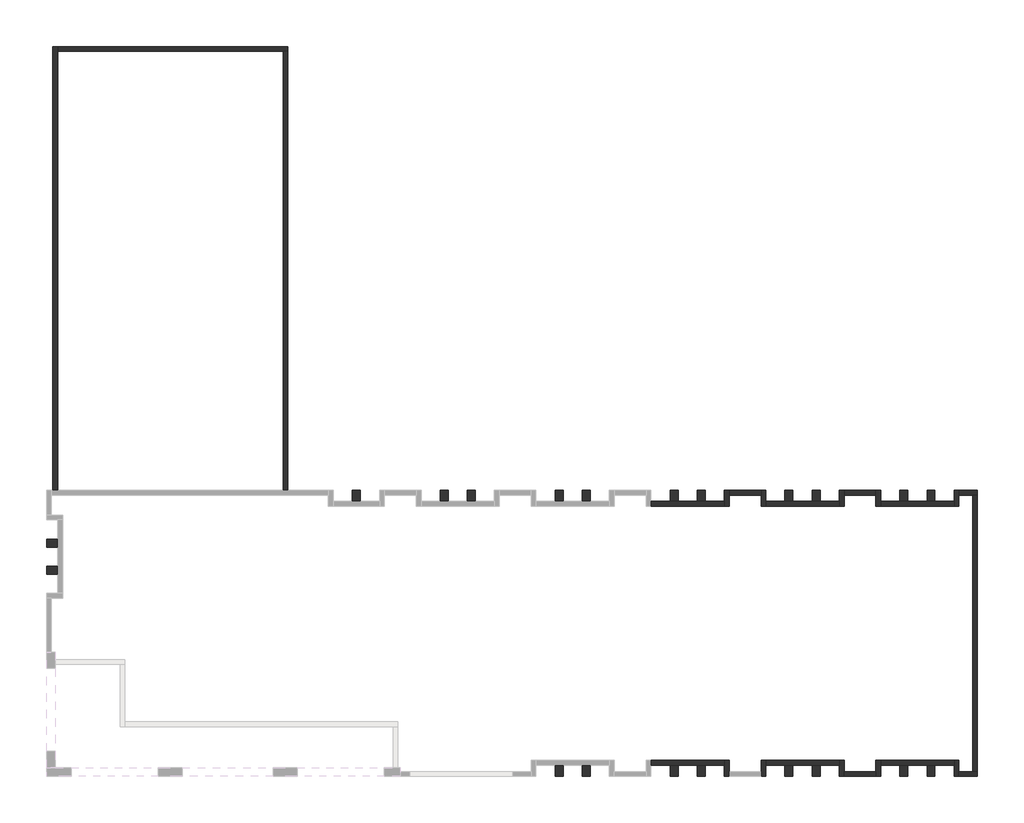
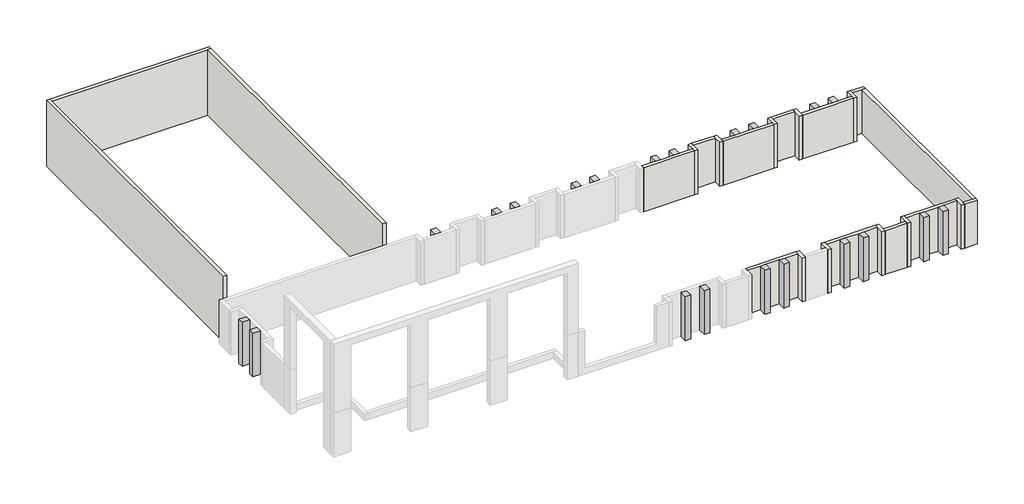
# One storey, part 2 of 2: 25 walls, 21 columns.
"""IFC4 building model written with IfcOpenShell, lengths in millimetres."""

from ifc_helpers import new_model, si_unit, frame, origin, place, context, project, spatial, polyline, outline, extrude, faceted_brep, element, save

model = new_model("IFC4")

# Units and contexts
model_context = context("Model", 3, world=origin())
ifc_project = project(units=[si_unit("LENGTHUNIT", "METRE", prefix="MILLI")], contexts=[model_context])

# Site, building, storey
site = spatial("IfcSite", under=ifc_project)
building = spatial("IfcBuilding", under=site)
storey = spatial("IfcBuildingStorey", under=building, Name="室外地坪", Elevation=-600.0)

# Columns
placement = place(None, origin())
element("IfcColumn", 1, ObjectType="矩形建筑柱 : 500 x 1000 mm", at=placement, inside=storey, context=model_context, shape_type="SweptSolid", body=[
    extrude(outline(polyline([(-38741.7970835, -14069.0484842), (-38741.7970835, -13569.0484842), (-38041.7970835, -13569.0484842), (-38041.7970835, -14069.0484842), (-38741.7970835, -14069.0484842)])), frame((0.0, 0.0, -600.0), z_axis=(0.0, 0.0, 1.0), x_axis=(1.0, 0.0, 0.0)), (0.0, 0.0, 1.0), 4200.0),
])
element("IfcColumn", 2, ObjectType="矩形建筑柱 : 500 x 1000 mm", at=placement, inside=storey, context=model_context, shape_type="SweptSolid", body=[
    extrude(outline(polyline([(-38741.7970835, -15769.0484842), (-38741.7970835, -15269.0484842), (-38041.7970835, -15269.0484842), (-38041.7970835, -15769.0484842), (-38741.7970835, -15769.0484842)])), frame((0.0, 0.0, -600.0), z_axis=(0.0, 0.0, 1.0), x_axis=(1.0, 0.0, 0.0)), (0.0, 0.0, 1.0), 4200.0),
])
element("IfcColumn", 3, ObjectType="矩形建筑柱 : 500 x 1000 mm", at=placement, inside=storey, context=model_context, shape_type="SweptSolid", body=[
    extrude(outline(polyline([(14718.2029165, -10509.0484842), (15218.2029165, -10509.0484842), (15218.2029165, -11209.0484842), (14718.2029165, -11209.0484842), (14718.2029165, -10509.0484842)])), frame((0.0, 0.0, -600.0), z_axis=(0.0, 0.0, 1.0), x_axis=(1.0, 0.0, 0.0)), (0.0, 0.0, 1.0), 4200.0),
])
element("IfcColumn", 4, ObjectType="矩形建筑柱 : 500 x 1000 mm", at=placement, inside=storey, context=model_context, shape_type="SweptSolid", body=[
    extrude(outline(polyline([(16418.2029165, -10509.0484842), (16918.2029165, -10509.0484842), (16918.2029165, -11209.0484842), (16418.2029165, -11209.0484842), (16418.2029165, -10509.0484842)])), frame((0.0, 0.0, -600.0), z_axis=(0.0, 0.0, 1.0), x_axis=(1.0, 0.0, 0.0)), (0.0, 0.0, 1.0), 4200.0),
])
element("IfcColumn", 5, ObjectType="矩形建筑柱 : 500 x 1000 mm", at=placement, inside=storey, context=model_context, shape_type="SweptSolid", body=[
    extrude(outline(polyline([(7518.2029165, -10509.0484842), (8018.2029165, -10509.0484842), (8018.2029165, -11209.0484842), (7518.2029165, -11209.0484842), (7518.2029165, -10509.0484842)])), frame((0.0, 0.0, -600.0), z_axis=(0.0, 0.0, 1.0), x_axis=(1.0, 0.0, 0.0)), (0.0, 0.0, 1.0), 4200.0),
])
element("IfcColumn", 6, ObjectType="矩形建筑柱 : 500 x 1000 mm", at=placement, inside=storey, context=model_context, shape_type="SweptSolid", body=[
    extrude(outline(polyline([(9218.2029165, -10509.0484842), (9718.2029165, -10509.0484842), (9718.2029165, -11209.0484842), (9218.2029165, -11209.0484842), (9218.2029165, -10509.0484842)])), frame((0.0, 0.0, -600.0), z_axis=(0.0, 0.0, 1.0), x_axis=(1.0, 0.0, 0.0)), (0.0, 0.0, 1.0), 4200.0),
])
element("IfcColumn", 7, ObjectType="矩形建筑柱 : 500 x 1000 mm", at=placement, inside=storey, context=model_context, shape_type="SweptSolid", body=[
    extrude(outline(polyline([(318.2029165, -10509.0484842), (818.2029165, -10509.0484842), (818.2029165, -11209.0484842), (318.2029165, -11209.0484842), (318.2029165, -10509.0484842)])), frame((0.0, 0.0, -600.0), z_axis=(0.0, 0.0, 1.0), x_axis=(1.0, 0.0, 0.0)), (0.0, 0.0, 1.0), 4200.0),
])
element("IfcColumn", 8, ObjectType="矩形建筑柱 : 500 x 1000 mm", at=placement, inside=storey, context=model_context, shape_type="SweptSolid", body=[
    extrude(outline(polyline([(2018.2029165, -10509.0484842), (2518.2029165, -10509.0484842), (2518.2029165, -11209.0484842), (2018.2029165, -11209.0484842), (2018.2029165, -10509.0484842)])), frame((0.0, 0.0, -600.0), z_axis=(0.0, 0.0, 1.0), x_axis=(1.0, 0.0, 0.0)), (0.0, 0.0, 1.0), 4200.0),
])
element("IfcColumn", 9, ObjectType="矩形建筑柱 : 500 x 1000 mm", at=placement, inside=storey, context=model_context, shape_type="SweptSolid", body=[
    extrude(outline(polyline([(-6881.7970835, -10509.0484842), (-6381.7970835, -10509.0484842), (-6381.7970835, -11209.0484842), (-6881.7970835, -11209.0484842), (-6881.7970835, -10509.0484842)])), frame((0.0, 0.0, -600.0), z_axis=(0.0, 0.0, 1.0), x_axis=(1.0, 0.0, 0.0)), (0.0, 0.0, 1.0), 4200.0),
])
element("IfcColumn", 10, ObjectType="矩形建筑柱 : 500 x 1000 mm", at=placement, inside=storey, context=model_context, shape_type="SweptSolid", body=[
    extrude(outline(polyline([(-5181.7970835, -10509.0484842), (-4681.7970835, -10509.0484842), (-4681.7970835, -11209.0484842), (-5181.7970835, -11209.0484842), (-5181.7970835, -10509.0484842)])), frame((0.0, 0.0, -600.0), z_axis=(0.0, 0.0, 1.0), x_axis=(1.0, 0.0, 0.0)), (0.0, 0.0, 1.0), 4200.0),
])
element("IfcColumn", 11, ObjectType="矩形建筑柱 : 500 x 1000 mm", at=placement, inside=storey, context=model_context, shape_type="SweptSolid", body=[
    extrude(outline(polyline([(-14081.7970835, -10509.0484842), (-13581.7970835, -10509.0484842), (-13581.7970835, -11209.0484842), (-14081.7970835, -11209.0484842), (-14081.7970835, -10509.0484842)])), frame((0.0, 0.0, -600.0), z_axis=(0.0, 0.0, 1.0), x_axis=(1.0, 0.0, 0.0)), (0.0, 0.0, 1.0), 4200.0),
])
element("IfcColumn", 12, ObjectType="矩形建筑柱 : 500 x 1000 mm", at=placement, inside=storey, context=model_context, shape_type="SweptSolid", body=[
    extrude(outline(polyline([(-12381.7970835, -10509.0484842), (-11881.7970835, -10509.0484842), (-11881.7970835, -11209.0484842), (-12381.7970835, -11209.0484842), (-12381.7970835, -10509.0484842)])), frame((0.0, 0.0, -600.0), z_axis=(0.0, 0.0, 1.0), x_axis=(1.0, 0.0, 0.0)), (0.0, 0.0, 1.0), 4200.0),
])
element("IfcColumn", 13, ObjectType="矩形建筑柱 : 500 x 1000 mm", at=placement, inside=storey, context=model_context, shape_type="SweptSolid", body=[
    extrude(outline(polyline([(-19581.7970835, -10509.0484842), (-19081.7970835, -10509.0484842), (-19081.7970835, -11209.0484842), (-19581.7970835, -11209.0484842), (-19581.7970835, -10509.0484842)])), frame((0.0, 0.0, -600.0), z_axis=(0.0, 0.0, 1.0), x_axis=(1.0, 0.0, 0.0)), (0.0, 0.0, 1.0), 4200.0),
])
element("IfcColumn", 14, ObjectType="矩形建筑柱 : 500 x 1000 mm", at=placement, inside=storey, context=model_context, shape_type="SweptSolid", body=[
    extrude(outline(polyline([(15218.2029165, -28429.0484842), (14718.2029165, -28429.0484842), (14718.2029165, -27729.0484842), (15218.2029165, -27729.0484842), (15218.2029165, -28429.0484842)])), frame((0.0, 0.0, -600.0), z_axis=(0.0, 0.0, 1.0), x_axis=(1.0, 0.0, 0.0)), (0.0, 0.0, 1.0), 4200.0),
])
element("IfcColumn", 15, ObjectType="矩形建筑柱 : 500 x 1000 mm", at=placement, inside=storey, context=model_context, shape_type="SweptSolid", body=[
    extrude(outline(polyline([(16918.2029165, -28429.0484842), (16418.2029165, -28429.0484842), (16418.2029165, -27729.0484842), (16918.2029165, -27729.0484842), (16918.2029165, -28429.0484842)])), frame((0.0, 0.0, -600.0), z_axis=(0.0, 0.0, 1.0), x_axis=(1.0, 0.0, 0.0)), (0.0, 0.0, 1.0), 4200.0),
])
element("IfcColumn", 16, ObjectType="矩形建筑柱 : 500 x 1000 mm", at=placement, inside=storey, context=model_context, shape_type="SweptSolid", body=[
    extrude(outline(polyline([(8018.2029165, -28429.0484842), (7518.2029165, -28429.0484842), (7518.2029165, -27729.0484842), (8018.2029165, -27729.0484842), (8018.2029165, -28429.0484842)])), frame((0.0, 0.0, -600.0), z_axis=(0.0, 0.0, 1.0), x_axis=(1.0, 0.0, 0.0)), (0.0, 0.0, 1.0), 4200.0),
])
element("IfcColumn", 17, ObjectType="矩形建筑柱 : 500 x 1000 mm", at=placement, inside=storey, context=model_context, shape_type="SweptSolid", body=[
    extrude(outline(polyline([(9718.2029165, -28429.0484842), (9218.2029165, -28429.0484842), (9218.2029165, -27729.0484842), (9718.2029165, -27729.0484842), (9718.2029165, -28429.0484842)])), frame((0.0, 0.0, -600.0), z_axis=(0.0, 0.0, 1.0), x_axis=(1.0, 0.0, 0.0)), (0.0, 0.0, 1.0), 4200.0),
])
element("IfcColumn", 18, ObjectType="矩形建筑柱 : 500 x 1000 mm", at=placement, inside=storey, context=model_context, shape_type="SweptSolid", body=[
    extrude(outline(polyline([(818.2029165, -28429.0484842), (318.2029165, -28429.0484842), (318.2029165, -27729.0484842), (818.2029165, -27729.0484842), (818.2029165, -28429.0484842)])), frame((0.0, 0.0, -600.0), z_axis=(0.0, 0.0, 1.0), x_axis=(1.0, 0.0, 0.0)), (0.0, 0.0, 1.0), 4200.0),
])
element("IfcColumn", 19, ObjectType="矩形建筑柱 : 500 x 1000 mm", at=placement, inside=storey, context=model_context, shape_type="SweptSolid", body=[
    extrude(outline(polyline([(2518.2029165, -28429.0484842), (2018.2029165, -28429.0484842), (2018.2029165, -27729.0484842), (2518.2029165, -27729.0484842), (2518.2029165, -28429.0484842)])), frame((0.0, 0.0, -600.0), z_axis=(0.0, 0.0, 1.0), x_axis=(1.0, 0.0, 0.0)), (0.0, 0.0, 1.0), 4200.0),
])
element("IfcColumn", 20, ObjectType="矩形建筑柱 : 500 x 1000 mm", at=placement, inside=storey, context=model_context, shape_type="SweptSolid", body=[
    extrude(outline(polyline([(-6381.7970835, -28429.0484842), (-6881.7970835, -28429.0484842), (-6881.7970835, -27729.0484842), (-6381.7970835, -27729.0484842), (-6381.7970835, -28429.0484842)])), frame((0.0, 0.0, -600.0), z_axis=(0.0, 0.0, 1.0), x_axis=(1.0, 0.0, 0.0)), (0.0, 0.0, 1.0), 4200.0),
])
element("IfcColumn", 21, ObjectType="矩形建筑柱 : 500 x 1000 mm", at=placement, inside=storey, context=model_context, shape_type="SweptSolid", body=[
    extrude(outline(polyline([(-4681.7970835, -28429.0484842), (-5181.7970835, -28429.0484842), (-5181.7970835, -27729.0484842), (-4681.7970835, -27729.0484842), (-4681.7970835, -28429.0484842)])), frame((0.0, 0.0, -600.0), z_axis=(0.0, 0.0, 1.0), x_axis=(1.0, 0.0, 0.0)), (0.0, 0.0, 1.0), 4200.0),
])

# Walls
element("IfcWall", 22, ObjectType="F1-24CM-外牆", at=placement, inside=storey, context=model_context, shape_type="Brep", body=[
    faceted_brep([(19578.2029165, -28129.0484842, -600.0), (19578.2029165, -10809.0484842, -600.0), (19578.2029165, -10809.0484842, 3600.0), (19578.2029165, -28129.0484842, 3600.0), (19278.2029165, -28129.0484842, -600.0), (19278.2029165, -28129.0484842, 3600.0), (19278.2029165, -20809.0484842, 3600.0), (19278.2029165, -20529.0484842, 3600.0), (19278.2029165, -18409.0484842, 3600.0), (19278.2029165, -18129.0484842, 3600.0), (19278.2029165, -14809.0484842, 3600.0), (19278.2029165, -14529.0484842, 3600.0), (19278.2029165, -10809.0484842, 3600.0), (19278.2029165, -10809.0484842, -600.0)], [[[0, 1, 2, 3]], [[4, 5, 6, 7, 8, 9, 10, 11, 12, 13]], [[1, 0, 4, 13]], [[3, 2, 12, 11, 10, 9, 8, 7, 6, 5]], [[2, 1, 13, 12]], [[0, 3, 5, 4]]]),
])
element("IfcWall", 23, ObjectType="F1-24CM-外牆", at=placement, inside=storey, context=model_context, shape_type="Brep", body=[
    faceted_brep([(19578.2029165, -28129.0484842, -600.0), (19278.2029165, -28129.0484842, -600.0), (18418.2029165, -28129.0484842, -600.0), (18418.2029165, -28129.0484842, 3600.0), (19278.2029165, -28129.0484842, 3600.0), (19578.2029165, -28129.0484842, 3600.0), (19578.2029165, -28429.0484842, -600.0), (19578.2029165, -28429.0484842, 3600.0), (18418.2029165, -28429.0484842, 3600.0), (18418.2029165, -28429.0484842, -600.0)], [[[0, 1, 2, 3, 4, 5]], [[6, 7, 8, 9]], [[2, 1, 0, 6, 9]], [[5, 4, 3, 8, 7]], [[0, 5, 7, 6]], [[3, 2, 9, 8]]]),
])
element("IfcWall", 24, ObjectType="F1-24CM-外牆", at=placement, inside=storey, context=model_context, shape_type="Brep", body=[
    faceted_brep([(13518.2029165, -11509.0484842, -600.0), (18118.2029165, -11509.0484842, -600.0), (18118.2029165, -11509.0484842, 3600.0), (15158.2029165, -11509.0484842, 3600.0), (14878.2029165, -11509.0484842, 3600.0), (13518.2029165, -11509.0484842, 3600.0), (13518.2029165, -11209.0484842, -600.0), (13518.2029165, -11209.0484842, 3600.0), (14718.2029165, -11209.0484842, 3600.0), (15218.2029165, -11209.0484842, 3600.0), (16418.2029165, -11209.0484842, 3600.0), (16918.2029165, -11209.0484842, 3600.0), (18118.2029165, -11209.0484842, 3600.0), (18118.2029165, -11209.0484842, -600.0), (16918.2029165, -11209.0484842, -600.0), (16418.2029165, -11209.0484842, -600.0), (15218.2029165, -11209.0484842, -600.0), (14718.2029165, -11209.0484842, -600.0)], [[[0, 1, 2, 3, 4, 5]], [[6, 7, 8, 9, 10, 11, 12, 13, 14, 15, 16, 17]], [[1, 0, 6, 17, 16, 15, 14, 13]], [[5, 4, 3, 2, 12, 11, 10, 9, 8, 7]], [[2, 1, 13, 12]], [[0, 5, 7, 6]]]),
])
element("IfcWall", 25, ObjectType="F1-24CM-外牆", at=placement, inside=storey, context=model_context, shape_type="Brep", body=[
    faceted_brep([(13218.2029165, -10509.0484842, -600.0), (13218.2029165, -10809.0484842, -600.0), (13218.2029165, -11509.0484842, -600.0), (13218.2029165, -11509.0484842, 3600.0), (13218.2029165, -10809.0484842, 3600.0), (13218.2029165, -10509.0484842, 3600.0), (13518.2029165, -10509.0484842, -600.0), (13518.2029165, -10509.0484842, 3600.0), (13518.2029165, -11209.0484842, 3600.0), (13518.2029165, -11509.0484842, 3600.0), (13518.2029165, -11509.0484842, -600.0), (13518.2029165, -11209.0484842, -600.0)], [[[0, 1, 2, 3, 4, 5]], [[6, 7, 8, 9, 10, 11]], [[2, 1, 0, 6, 11, 10]], [[5, 4, 3, 9, 8, 7]], [[0, 5, 7, 6]], [[3, 2, 10, 9]]]),
])
element("IfcWall", 26, ObjectType="F1-24CM-外牆", at=placement, inside=storey, context=model_context, shape_type="Brep", body=[
    faceted_brep([(18418.2029165, -11509.0484842, -600.0), (18418.2029165, -10809.0484842, -600.0), (18418.2029165, -10509.0484842, -600.0), (18418.2029165, -10509.0484842, 3600.0), (18418.2029165, -10809.0484842, 3600.0), (18418.2029165, -11509.0484842, 3600.0), (18118.2029165, -11509.0484842, -600.0), (18118.2029165, -11509.0484842, 3600.0), (18118.2029165, -11209.0484842, 3600.0), (18118.2029165, -10509.0484842, 3600.0), (18118.2029165, -10509.0484842, -600.0), (18118.2029165, -11209.0484842, -600.0)], [[[0, 1, 2, 3, 4, 5]], [[6, 7, 8, 9, 10, 11]], [[2, 1, 0, 6, 11, 10]], [[5, 4, 3, 9, 8, 7]], [[3, 2, 10, 9]], [[0, 5, 7, 6]]]),
])
element("IfcWall", 27, ObjectType="F1-24CM-外牆", at=placement, inside=storey, context=model_context, shape_type="Brep", body=[
    faceted_brep([(18418.2029165, -10809.0484842, -600.0), (19278.2029165, -10809.0484842, -600.0), (19578.2029165, -10809.0484842, -600.0), (19578.2029165, -10809.0484842, 3600.0), (19278.2029165, -10809.0484842, 3600.0), (18418.2029165, -10809.0484842, 3600.0), (18418.2029165, -10509.0484842, -600.0), (18418.2029165, -10509.0484842, 3600.0), (19578.2029165, -10509.0484842, 3600.0), (19578.2029165, -10509.0484842, -600.0)], [[[0, 1, 2, 3, 4, 5]], [[6, 7, 8, 9]], [[2, 1, 0, 6, 9]], [[5, 4, 3, 8, 7]], [[3, 2, 9, 8]], [[0, 5, 7, 6]]]),
])
element("IfcWall", 28, ObjectType="F1-24CM-外牆", at=placement, inside=storey, context=model_context, shape_type="Brep", body=[
    faceted_brep([(6318.2029165, -11509.0484842, -600.0), (10918.2029165, -11509.0484842, -600.0), (10918.2029165, -11509.0484842, 3600.0), (6318.2029165, -11509.0484842, 3600.0), (6318.2029165, -11209.0484842, -600.0), (6318.2029165, -11209.0484842, 3600.0), (7518.2029165, -11209.0484842, 3600.0), (8018.2029165, -11209.0484842, 3600.0), (9218.2029165, -11209.0484842, 3600.0), (9718.2029165, -11209.0484842, 3600.0), (10918.2029165, -11209.0484842, 3600.0), (10918.2029165, -11209.0484842, -600.0), (9718.2029165, -11209.0484842, -600.0), (9218.2029165, -11209.0484842, -600.0), (8018.2029165, -11209.0484842, -600.0), (7518.2029165, -11209.0484842, -600.0)], [[[0, 1, 2, 3]], [[4, 5, 6, 7, 8, 9, 10, 11, 12, 13, 14, 15]], [[1, 0, 4, 15, 14, 13, 12, 11]], [[3, 2, 10, 9, 8, 7, 6, 5]], [[2, 1, 11, 10]], [[0, 3, 5, 4]]]),
])
element("IfcWall", 29, ObjectType="F1-24CM-外牆", at=placement, inside=storey, context=model_context, shape_type="Brep", body=[
    faceted_brep([(6018.2029165, -10509.0484842, -600.0), (6018.2029165, -10809.0484842, -600.0), (6018.2029165, -11509.0484842, -600.0), (6018.2029165, -11509.0484842, 3600.0), (6018.2029165, -10809.0484842, 3600.0), (6018.2029165, -10509.0484842, 3600.0), (6318.2029165, -10509.0484842, -600.0), (6318.2029165, -10509.0484842, 3600.0), (6318.2029165, -11209.0484842, 3600.0), (6318.2029165, -11509.0484842, 3600.0), (6318.2029165, -11509.0484842, -600.0), (6318.2029165, -11209.0484842, -600.0)], [[[0, 1, 2, 3, 4, 5]], [[6, 7, 8, 9, 10, 11]], [[2, 1, 0, 6, 11, 10]], [[5, 4, 3, 9, 8, 7]], [[0, 5, 7, 6]], [[3, 2, 10, 9]]]),
])
element("IfcWall", 30, ObjectType="F1-24CM-外牆", at=placement, inside=storey, context=model_context, shape_type="Brep", body=[
    faceted_brep([(11218.2029165, -11509.0484842, -600.0), (11218.2029165, -10809.0484842, -600.0), (11218.2029165, -10509.0484842, -600.0), (11218.2029165, -10509.0484842, 3600.0), (11218.2029165, -10809.0484842, 3600.0), (11218.2029165, -11509.0484842, 3600.0), (10918.2029165, -11509.0484842, -600.0), (10918.2029165, -11509.0484842, 3600.0), (10918.2029165, -11209.0484842, 3600.0), (10918.2029165, -10509.0484842, 3600.0), (10918.2029165, -10509.0484842, -600.0), (10918.2029165, -11209.0484842, -600.0)], [[[0, 1, 2, 3, 4, 5]], [[6, 7, 8, 9, 10, 11]], [[2, 1, 0, 6, 11, 10]], [[5, 4, 3, 9, 8, 7]], [[3, 2, 10, 9]], [[0, 5, 7, 6]]]),
])
element("IfcWall", 31, ObjectType="F1-24CM-外牆", at=placement, inside=storey, context=model_context, shape_type="Brep", body=[
    faceted_brep([(-881.7970835, -11509.0484842, -600.0), (3718.2029165, -11509.0484842, -600.0), (3718.2029165, -11509.0484842, 3600.0), (-881.7970835, -11509.0484842, 3600.0), (-881.7970835, -11209.0484842, -600.0), (-881.7970835, -11209.0484842, 3600.0), (318.2029165, -11209.0484842, 3600.0), (818.2029165, -11209.0484842, 3600.0), (2018.2029165, -11209.0484842, 3600.0), (2518.2029165, -11209.0484842, 3600.0), (3718.2029165, -11209.0484842, 3600.0), (3718.2029165, -11209.0484842, -600.0), (2518.2029165, -11209.0484842, -600.0), (2018.2029165, -11209.0484842, -600.0), (818.2029165, -11209.0484842, -600.0), (318.2029165, -11209.0484842, -600.0)], [[[0, 1, 2, 3]], [[4, 5, 6, 7, 8, 9, 10, 11, 12, 13, 14, 15]], [[1, 0, 4, 15, 14, 13, 12, 11]], [[3, 2, 10, 9, 8, 7, 6, 5]], [[0, 3, 5, 4]], [[2, 1, 11, 10]]]),
])
element("IfcWall", 32, ObjectType="F1-24CM-外牆", at=placement, inside=storey, context=model_context, shape_type="Brep", body=[
    faceted_brep([(4018.2029165, -11509.0484842, -600.0), (4018.2029165, -10809.0484842, -600.0), (4018.2029165, -10509.0484842, -600.0), (4018.2029165, -10509.0484842, 3600.0), (4018.2029165, -10809.0484842, 3600.0), (4018.2029165, -11509.0484842, 3600.0), (3718.2029165, -11509.0484842, -600.0), (3718.2029165, -11509.0484842, 3600.0), (3718.2029165, -11209.0484842, 3600.0), (3718.2029165, -10509.0484842, 3600.0), (3718.2029165, -10509.0484842, -600.0), (3718.2029165, -11209.0484842, -600.0)], [[[0, 1, 2, 3, 4, 5]], [[6, 7, 8, 9, 10, 11]], [[2, 1, 0, 6, 11, 10]], [[5, 4, 3, 9, 8, 7]], [[3, 2, 10, 9]], [[0, 5, 7, 6]]]),
])
element("IfcWall", 33, ObjectType="F1-24CM-外牆", at=placement, inside=storey, context=model_context, shape_type="Brep", body=[
    faceted_brep([(11218.2029165, -10809.0484842, -600.0), (13218.2029165, -10809.0484842, -600.0), (13218.2029165, -10809.0484842, 3600.0), (12358.2029165, -10809.0484842, 3600.0), (12078.2029165, -10809.0484842, 3600.0), (11218.2029165, -10809.0484842, 3600.0), (11218.2029165, -10509.0484842, -600.0), (11218.2029165, -10509.0484842, 3600.0), (13218.2029165, -10509.0484842, 3600.0), (13218.2029165, -10509.0484842, -600.0)], [[[0, 1, 2, 3, 4, 5]], [[6, 7, 8, 9]], [[1, 0, 6, 9]], [[5, 4, 3, 2, 8, 7]], [[2, 1, 9, 8]], [[0, 5, 7, 6]]]),
])
element("IfcWall", 34, ObjectType="F1-24CM-外牆", at=placement, inside=storey, context=model_context, shape_type="Brep", body=[
    faceted_brep([(4018.2029165, -10809.0484842, -600.0), (6018.2029165, -10809.0484842, -600.0), (6018.2029165, -10809.0484842, 3600.0), (5158.2029165, -10809.0484842, 3600.0), (4878.2029165, -10809.0484842, 3600.0), (4018.2029165, -10809.0484842, 3600.0), (4018.2029165, -10509.0484842, -600.0), (4018.2029165, -10509.0484842, 3600.0), (6018.2029165, -10509.0484842, 3600.0), (6018.2029165, -10509.0484842, -600.0)], [[[0, 1, 2, 3, 4, 5]], [[6, 7, 8, 9]], [[1, 0, 6, 9]], [[5, 4, 3, 2, 8, 7]], [[2, 1, 9, 8]], [[0, 5, 7, 6]]]),
])
element("IfcWall", 35, ObjectType="F1-24CM-外牆", at=placement, inside=storey, context=model_context, shape_type="Brep", body=[
    faceted_brep([(13518.2029165, -27729.0484842, -600.0), (14718.2029165, -27729.0484842, -600.0), (15218.2029165, -27729.0484842, -600.0), (16418.2029165, -27729.0484842, -600.0), (16918.2029165, -27729.0484842, -600.0), (18118.2029165, -27729.0484842, -600.0), (18118.2029165, -27729.0484842, 3600.0), (16918.2029165, -27729.0484842, 3600.0), (16418.2029165, -27729.0484842, 3600.0), (15218.2029165, -27729.0484842, 3600.0), (14718.2029165, -27729.0484842, 3600.0), (13518.2029165, -27729.0484842, 3600.0), (13518.2029165, -27429.0484842, -600.0), (13518.2029165, -27429.0484842, 3600.0), (18118.2029165, -27429.0484842, 3600.0), (18118.2029165, -27429.0484842, -600.0)], [[[0, 1, 2, 3, 4, 5, 6, 7, 8, 9, 10, 11]], [[12, 13, 14, 15]], [[5, 4, 3, 2, 1, 0, 12, 15]], [[11, 10, 9, 8, 7, 6, 14, 13]], [[0, 11, 13, 12]], [[6, 5, 15, 14]]]),
])
element("IfcWall", 36, ObjectType="F1-24CM-外牆", at=placement, inside=storey, context=model_context, shape_type="Brep", body=[
    faceted_brep([(13518.2029165, -28429.0484842, -600.0), (13518.2029165, -27729.0484842, -600.0), (13518.2029165, -27429.0484842, -600.0), (13518.2029165, -27429.0484842, 3600.0), (13518.2029165, -27729.0484842, 3600.0), (13518.2029165, -28429.0484842, 3600.0), (13218.2029165, -28429.0484842, -600.0), (13218.2029165, -28429.0484842, 3600.0), (13218.2029165, -28129.0484842, 3600.0), (13218.2029165, -27429.0484842, 3600.0), (13218.2029165, -27429.0484842, -600.0), (13218.2029165, -28129.0484842, -600.0)], [[[0, 1, 2, 3, 4, 5]], [[6, 7, 8, 9, 10, 11]], [[2, 1, 0, 6, 11, 10]], [[5, 4, 3, 9, 8, 7]], [[0, 5, 7, 6]], [[3, 2, 10, 9]]]),
])
element("IfcWall", 37, ObjectType="F1-24CM-外牆", at=placement, inside=storey, context=model_context, shape_type="Brep", body=[
    faceted_brep([(18118.2029165, -27429.0484842, -600.0), (18118.2029165, -27729.0484842, -600.0), (18118.2029165, -28429.0484842, -600.0), (18118.2029165, -28429.0484842, 3600.0), (18118.2029165, -27729.0484842, 3600.0), (18118.2029165, -27429.0484842, 3600.0), (18418.2029165, -27429.0484842, -600.0), (18418.2029165, -27429.0484842, 3600.0), (18418.2029165, -28129.0484842, 3600.0), (18418.2029165, -28429.0484842, 3600.0), (18418.2029165, -28429.0484842, -600.0), (18418.2029165, -28129.0484842, -600.0)], [[[0, 1, 2, 3, 4, 5]], [[6, 7, 8, 9, 10, 11]], [[2, 1, 0, 6, 11, 10]], [[5, 4, 3, 9, 8, 7]], [[3, 2, 10, 9]], [[0, 5, 7, 6]]]),
])
element("IfcWall", 38, ObjectType="F1-24CM-外牆", at=placement, inside=storey, context=model_context, shape_type="Brep", body=[
    faceted_brep([(6318.2029165, -27729.0484842, -600.0), (7518.2029165, -27729.0484842, -600.0), (8018.2029165, -27729.0484842, -600.0), (9218.2029165, -27729.0484842, -600.0), (9718.2029165, -27729.0484842, -600.0), (10918.2029165, -27729.0484842, -600.0), (10918.2029165, -27729.0484842, 3600.0), (9718.2029165, -27729.0484842, 3600.0), (9218.2029165, -27729.0484842, 3600.0), (8018.2029165, -27729.0484842, 3600.0), (7518.2029165, -27729.0484842, 3600.0), (6318.2029165, -27729.0484842, 3600.0), (6318.2029165, -27429.0484842, -600.0), (6318.2029165, -27429.0484842, 3600.0), (10918.2029165, -27429.0484842, 3600.0), (10918.2029165, -27429.0484842, -600.0)], [[[0, 1, 2, 3, 4, 5, 6, 7, 8, 9, 10, 11]], [[12, 13, 14, 15]], [[5, 4, 3, 2, 1, 0, 12, 15]], [[11, 10, 9, 8, 7, 6, 14, 13]], [[0, 11, 13, 12]], [[6, 5, 15, 14]]]),
])
element("IfcWall", 39, ObjectType="F1-24CM-外牆", at=placement, inside=storey, context=model_context, shape_type="Brep", body=[
    faceted_brep([(6318.2029165, -28429.0484842, -600.0), (6318.2029165, -27729.0484842, -600.0), (6318.2029165, -27429.0484842, -600.0), (6318.2029165, -27429.0484842, 3600.0), (6318.2029165, -27729.0484842, 3600.0), (6318.2029165, -28429.0484842, 3600.0), (6018.2029165, -28429.0484842, -600.0), (6018.2029165, -28429.0484842, 3600.0), (6018.2029165, -28129.0484842, 3600.0), (6018.2029165, -27429.0484842, 3600.0), (6018.2029165, -27429.0484842, -600.0), (6018.2029165, -28129.0484842, -600.0)], [[[0, 1, 2, 3, 4, 5]], [[6, 7, 8, 9, 10, 11]], [[2, 1, 0, 6, 11, 10]], [[5, 4, 3, 9, 8, 7]], [[0, 5, 7, 6]], [[3, 2, 10, 9]]]),
])
element("IfcWall", 40, ObjectType="F1-24CM-外牆", at=placement, inside=storey, context=model_context, shape_type="Brep", body=[
    faceted_brep([(10918.2029165, -27429.0484842, -600.0), (10918.2029165, -27729.0484842, -600.0), (10918.2029165, -28429.0484842, -600.0), (10918.2029165, -28429.0484842, 3600.0), (10918.2029165, -27729.0484842, 3600.0), (10918.2029165, -27429.0484842, 3600.0), (11218.2029165, -27429.0484842, -600.0), (11218.2029165, -27429.0484842, 3600.0), (11218.2029165, -28129.0484842, 3600.0), (11218.2029165, -28429.0484842, 3600.0), (11218.2029165, -28429.0484842, -600.0), (11218.2029165, -28129.0484842, -600.0)], [[[0, 1, 2, 3, 4, 5]], [[6, 7, 8, 9, 10, 11]], [[2, 1, 0, 6, 11, 10]], [[5, 4, 3, 9, 8, 7]], [[3, 2, 10, 9]], [[0, 5, 7, 6]]]),
])
element("IfcWall", 41, ObjectType="F1-24CM-外牆", at=placement, inside=storey, context=model_context, shape_type="Brep", body=[
    faceted_brep([(-881.7970835, -27729.0484842, -600.0), (318.2029165, -27729.0484842, -600.0), (818.2029165, -27729.0484842, -600.0), (2018.2029165, -27729.0484842, -600.0), (2518.2029165, -27729.0484842, -600.0), (3718.2029165, -27729.0484842, -600.0), (3718.2029165, -27729.0484842, 3600.0), (2518.2029165, -27729.0484842, 3600.0), (2018.2029165, -27729.0484842, 3600.0), (818.2029165, -27729.0484842, 3600.0), (318.2029165, -27729.0484842, 3600.0), (-881.7970835, -27729.0484842, 3600.0), (-881.7970835, -27429.0484842, -600.0), (-881.7970835, -27429.0484842, 3600.0), (3718.2029165, -27429.0484842, 3600.0), (3718.2029165, -27429.0484842, -600.0)], [[[0, 1, 2, 3, 4, 5, 6, 7, 8, 9, 10, 11]], [[12, 13, 14, 15]], [[5, 4, 3, 2, 1, 0, 12, 15]], [[11, 10, 9, 8, 7, 6, 14, 13]], [[0, 11, 13, 12]], [[6, 5, 15, 14]]]),
])
element("IfcWall", 42, ObjectType="F1-24CM-外牆", at=placement, inside=storey, context=model_context, shape_type="Brep", body=[
    faceted_brep([(3718.2029165, -27429.0484842, -600.0), (3718.2029165, -27729.0484842, -600.0), (3718.2029165, -28429.0484842, -600.0), (3718.2029165, -28429.0484842, 3600.0), (3718.2029165, -27729.0484842, 3600.0), (3718.2029165, -27429.0484842, 3600.0), (4018.2029165, -27429.0484842, -600.0), (4018.2029165, -27429.0484842, 3600.0), (4018.2029165, -28129.0484842, 3600.0), (4018.2029165, -28429.0484842, 3600.0), (4018.2029165, -28429.0484842, -600.0), (4018.2029165, -28129.0484842, -600.0)], [[[0, 1, 2, 3, 4, 5]], [[6, 7, 8, 9, 10, 11]], [[2, 1, 0, 6, 11, 10]], [[5, 4, 3, 9, 8, 7]], [[3, 2, 10, 9]], [[0, 5, 7, 6]]]),
])
element("IfcWall", 43, ObjectType="F1-24CM-外牆", at=placement, inside=storey, context=model_context, shape_type="Brep", body=[
    faceted_brep([(13218.2029165, -28129.0484842, -600.0), (11218.2029165, -28129.0484842, -600.0), (11218.2029165, -28129.0484842, 3600.0), (12078.2029165, -28129.0484842, 3600.0), (12358.2029165, -28129.0484842, 3600.0), (13218.2029165, -28129.0484842, 3600.0), (13218.2029165, -28429.0484842, -600.0), (13218.2029165, -28429.0484842, 3600.0), (11218.2029165, -28429.0484842, 3600.0), (11218.2029165, -28429.0484842, -600.0)], [[[0, 1, 2, 3, 4, 5]], [[6, 7, 8, 9]], [[1, 0, 6, 9]], [[5, 4, 3, 2, 8, 7]], [[0, 5, 7, 6]], [[2, 1, 9, 8]]]),
])
element("IfcWall", 44, ObjectType="F1-24CM-外牆", at=placement, inside=storey, context=model_context, shape_type="Brep", body=[
    faceted_brep([(-38041.7970835, -10469.0484842, -600.0), (-38041.7970835, 16990.9515158, -600.0), (-38041.7970835, 17290.9515158, -600.0), (-38041.7970835, 17290.9515158, 5700.0), (-38041.7970835, 16990.9515158, 5700.0), (-38041.7970835, -10469.0484842, 5700.0), (-38341.7970835, -10469.0484842, -600.0), (-38341.7970835, -10469.0484842, 5700.0), (-38341.7970835, 17290.9515158, 5700.0), (-38341.7970835, 17290.9515158, -600.0)], [[[0, 1, 2, 3, 4, 5]], [[6, 7, 8, 9]], [[2, 1, 0, 6, 9]], [[5, 4, 3, 8, 7]], [[0, 5, 7, 6]], [[3, 2, 9, 8]]]),
])
element("IfcWall", 45, ObjectType="F1-24CM-外牆", at=placement, inside=storey, context=model_context, shape_type="Brep", body=[
    faceted_brep([(-38041.7970835, 16990.9515158, -600.0), (-23921.7970835, 16990.9515158, -600.0), (-23621.7970835, 16990.9515158, -600.0), (-23621.7970835, 16990.9515158, 5700.0), (-23921.7970835, 16990.9515158, 5700.0), (-38041.7970835, 16990.9515158, 5700.0), (-38041.7970835, 17290.9515158, -600.0), (-38041.7970835, 17290.9515158, 5700.0), (-23621.7970835, 17290.9515158, 5700.0), (-23621.7970835, 17290.9515158, -600.0)], [[[0, 1, 2, 3, 4, 5]], [[6, 7, 8, 9]], [[2, 1, 0, 6, 9]], [[5, 4, 3, 8, 7]], [[0, 5, 7, 6]], [[3, 2, 9, 8]]]),
])
element("IfcWall", 46, ObjectType="F1-24CM-外牆", at=placement, inside=storey, context=model_context, shape_type="SweptSolid", body=[
    extrude(outline(polyline([(-23921.7970835, -10509.0484842), (-23921.7970835, 16990.9515158), (-23621.7970835, 16990.9515158), (-23621.7970835, -10509.0484842), (-23921.7970835, -10509.0484842)])), frame((0.0, 0.0, -600.0), z_axis=(0.0, 0.0, 1.0), x_axis=(1.0, 0.0, 0.0)), (0.0, 0.0, 1.0), 6300.0),
])

save(model, "model.ifc")
